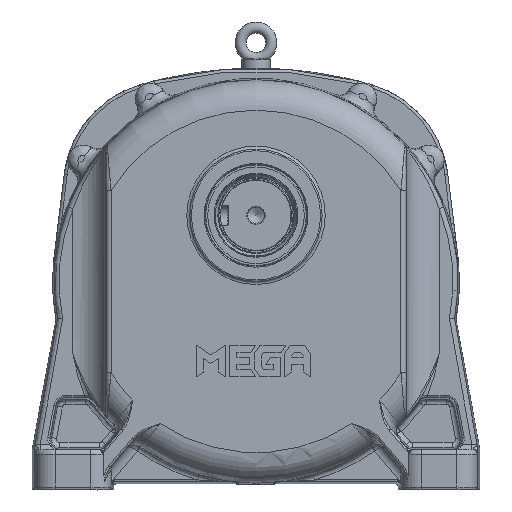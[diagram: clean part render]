
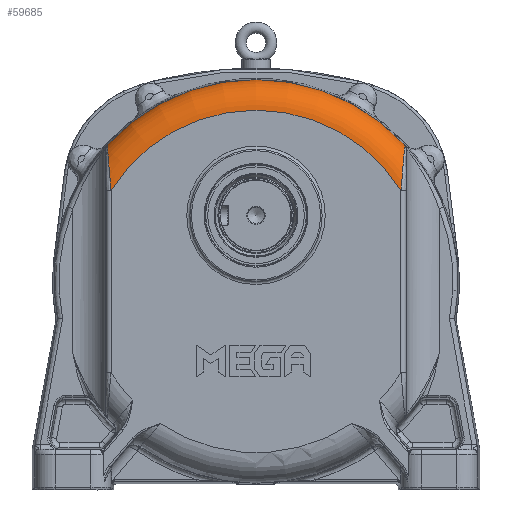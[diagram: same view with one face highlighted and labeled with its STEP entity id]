
A CAD part, front view. The second image highlights one B-rep face of the part: STEP entity #59685.
In plain terms, the highlighted toroidal (fillet/blend) face has major radius 168.286 mm and minor radius 30 mm.
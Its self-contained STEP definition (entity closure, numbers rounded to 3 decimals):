
#1246=TOROIDAL_SURFACE('',#64835,168.286,30.);
#2437=B_SPLINE_CURVE_WITH_KNOTS('',3,(#111914,#111915,#111916,#111917,#111918,
#111919,#111920,#111921),.UNSPECIFIED.,.F.,.F.,(4,1,1,1,1,4),(-4.797,
-3.426,-2.056,-1.028,-0.685,
0.),.UNSPECIFIED.);
#2438=B_SPLINE_CURVE_WITH_KNOTS('',3,(#111925,#111926,#111927,#111928,#111929,
#111930,#111931,#111932),.UNSPECIFIED.,.F.,.F.,(4,1,1,1,1,4),(-4.797,
-4.112,-3.427,-2.056,-0.685,
0.),.UNSPECIFIED.);
#2439=B_SPLINE_CURVE_WITH_KNOTS('',3,(#111933,#111934,#111935,#111936),
 .UNSPECIFIED.,.F.,.F.,(4,4),(-0.483,0.),.UNSPECIFIED.);
#2440=B_SPLINE_CURVE_WITH_KNOTS('',3,(#111937,#111938,#111939,#111940),
 .UNSPECIFIED.,.F.,.F.,(4,4),(0.,0.483),.UNSPECIFIED.);
#6509=FACE_OUTER_BOUND('',#10193,.T.);
#10193=EDGE_LOOP('',(#45356,#45357,#45358,#45359,#45360,#45361));
#20265=CIRCLE('',#64825,198.284);
#20275=CIRCLE('',#64836,168.286);
#25261=VERTEX_POINT('',#111833);
#25263=VERTEX_POINT('',#111844);
#25275=VERTEX_POINT('',#111912);
#25276=VERTEX_POINT('',#111913);
#25277=VERTEX_POINT('',#111922);
#25278=VERTEX_POINT('',#111924);
#32316=EDGE_CURVE('',#25263,#25261,#20265,.T.);
#32333=EDGE_CURVE('',#25275,#25276,#2437,.T.);
#32334=EDGE_CURVE('',#25275,#25277,#20275,.T.);
#32335=EDGE_CURVE('',#25278,#25277,#2438,.T.);
#32336=EDGE_CURVE('',#25263,#25278,#2439,.T.);
#32337=EDGE_CURVE('',#25276,#25261,#2440,.T.);
#45356=ORIENTED_EDGE('',*,*,#32333,.F.);
#45357=ORIENTED_EDGE('',*,*,#32334,.T.);
#45358=ORIENTED_EDGE('',*,*,#32335,.F.);
#45359=ORIENTED_EDGE('',*,*,#32336,.F.);
#45360=ORIENTED_EDGE('',*,*,#32316,.T.);
#45361=ORIENTED_EDGE('',*,*,#32337,.F.);
#59685=ADVANCED_FACE('',(#6509),#1246,.T.);
#64825=AXIS2_PLACEMENT_3D('',#111845,#76806,#76807);
#64835=AXIS2_PLACEMENT_3D('',#111911,#76826,#76827);
#64836=AXIS2_PLACEMENT_3D('',#111923,#76828,#76829);
#76806=DIRECTION('center_axis',(0.,-1.,0.));
#76807=DIRECTION('ref_axis',(-1.,0.,0.));
#76826=DIRECTION('center_axis',(0.,1.,0.));
#76827=DIRECTION('ref_axis',(0.,0.,1.));
#76828=DIRECTION('center_axis',(0.,1.,0.));
#76829=DIRECTION('ref_axis',(-1.,0.,0.));
#111833=CARTESIAN_POINT('',(-159.189,10.455,131.873));
#111844=CARTESIAN_POINT('',(133.806,10.455,131.873));
#111845=CARTESIAN_POINT('Origin',(-12.691,10.455,-1.75));
#111911=CARTESIAN_POINT('Origin',(-12.691,10.742,-1.75));
#111912=CARTESIAN_POINT('',(-155.191,-19.258,87.77));
#111913=CARTESIAN_POINT('',(-158.812,4.742,131.388));
#111914=CARTESIAN_POINT('Ctrl Pts',(-155.191,-19.258,
87.77));
#111915=CARTESIAN_POINT('Ctrl Pts',(-155.603,-19.258,
92.597));
#111916=CARTESIAN_POINT('Ctrl Pts',(-156.436,-18.415,
102.342));
#111917=CARTESIAN_POINT('Ctrl Pts',(-157.535,-14.01,
115.486));
#111918=CARTESIAN_POINT('Ctrl Pts',(-158.217,-7.794,
123.899));
#111919=CARTESIAN_POINT('Ctrl Pts',(-158.614,-1.566,
128.866));
#111920=CARTESIAN_POINT('Ctrl Pts',(-158.755,2.119,
130.656));
#111921=CARTESIAN_POINT('Ctrl Pts',(-158.812,4.742,
131.388));
#111922=CARTESIAN_POINT('',(129.809,-19.258,87.77));
#111923=CARTESIAN_POINT('Origin',(-12.691,-19.258,-1.75));
#111924=CARTESIAN_POINT('',(133.43,4.742,131.388));
#111925=CARTESIAN_POINT('Ctrl Pts',(133.43,4.742,131.388));
#111926=CARTESIAN_POINT('Ctrl Pts',(133.373,2.119,130.656));
#111927=CARTESIAN_POINT('Ctrl Pts',(133.184,-2.797,
128.269));
#111928=CARTESIAN_POINT('Ctrl Pts',(132.605,-10.577,
121.035));
#111929=CARTESIAN_POINT('Ctrl Pts',(131.666,-16.542,109.602));
#111930=CARTESIAN_POINT('Ctrl Pts',(130.635,-18.936,
97.452));
#111931=CARTESIAN_POINT('Ctrl Pts',(130.015,-19.258,
90.184));
#111932=CARTESIAN_POINT('Ctrl Pts',(129.809,-19.258,
87.77));
#111933=CARTESIAN_POINT('Ctrl Pts',(133.806,10.455,131.873));
#111934=CARTESIAN_POINT('Ctrl Pts',(133.596,8.555,132.076));
#111935=CARTESIAN_POINT('Ctrl Pts',(133.471,6.59,131.904));
#111936=CARTESIAN_POINT('Ctrl Pts',(133.43,4.742,131.388));
#111937=CARTESIAN_POINT('Ctrl Pts',(-158.812,4.742,
131.388));
#111938=CARTESIAN_POINT('Ctrl Pts',(-158.853,6.59,
131.904));
#111939=CARTESIAN_POINT('Ctrl Pts',(-158.979,8.555,
132.076));
#111940=CARTESIAN_POINT('Ctrl Pts',(-159.189,10.455,131.873));
